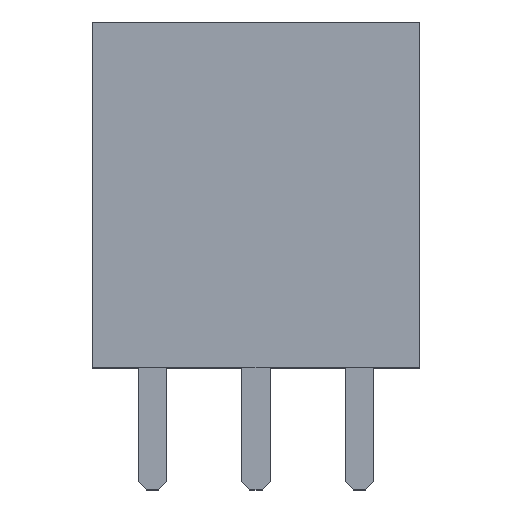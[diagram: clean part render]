
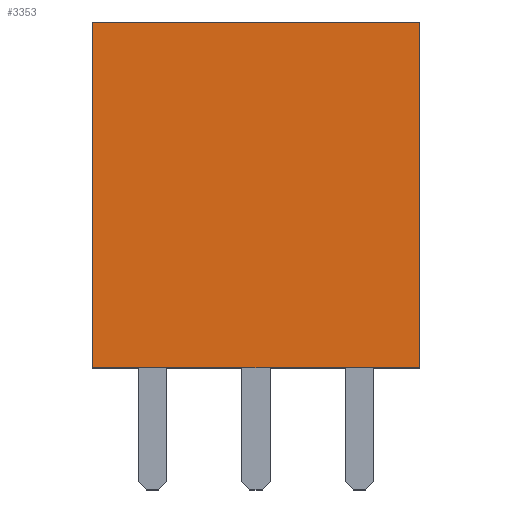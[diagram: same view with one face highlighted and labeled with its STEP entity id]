
A CAD part, top view. The second image highlights one B-rep face of the part: STEP entity #3353.
In plain terms, the highlighted planar face has unit normal (0, 0, 1).
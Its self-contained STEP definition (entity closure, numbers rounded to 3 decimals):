
#21 = EDGE_CURVE ( 'NONE', #4988, #99, #2025, .T. ) ;
#99 = VERTEX_POINT ( 'NONE', #1310 ) ;
#127 = CARTESIAN_POINT ( 'NONE',  ( -1.47, 8.5, 1.2 ) ) ;
#198 = DIRECTION ( 'NONE',  ( 0., -1., 0. ) ) ;
#530 = PLANE ( 'NONE',  #4767 ) ;
#582 = EDGE_CURVE ( 'NONE', #99, #4983, #1229, .T. ) ;
#817 = DIRECTION ( 'NONE',  ( 0., -1., 0. ) ) ;
#961 = CARTESIAN_POINT ( 'NONE',  ( -1.47, 8.5, 1.2 ) ) ;
#1229 = LINE ( 'NONE', #5742, #4268 ) ;
#1310 = CARTESIAN_POINT ( 'NONE',  ( 6.55, 8.5, 1.2 ) ) ;
#1910 = DIRECTION ( 'NONE',  ( 1., 0., 0. ) ) ;
#1981 = FACE_OUTER_BOUND ( 'NONE', #5090, .T. ) ;
#1993 = VECTOR ( 'NONE', #5568, 1000. ) ;
#2018 = EDGE_CURVE ( 'NONE', #4988, #4208, #5602, .T. ) ;
#2025 = LINE ( 'NONE', #961, #3276 ) ;
#2204 = EDGE_CURVE ( 'NONE', #4208, #4983, #4651, .T. ) ;
#2377 = CARTESIAN_POINT ( 'NONE',  ( -1.47, 0., 1.2 ) ) ;
#2457 = CARTESIAN_POINT ( 'NONE',  ( -1.47, 8.5, 1.2 ) ) ;
#3236 = CARTESIAN_POINT ( 'NONE',  ( -1.47, 0., 1.2 ) ) ;
#3276 = VECTOR ( 'NONE', #1910, 1000. ) ;
#3353 = ADVANCED_FACE ( 'NONE', ( #1981 ), #530, .F. ) ;
#3425 = VECTOR ( 'NONE', #198, 1000. ) ;
#3848 = DIRECTION ( 'NONE',  ( -1., 0., 0. ) ) ;
#4208 = VERTEX_POINT ( 'NONE', #3236 ) ;
#4251 = CARTESIAN_POINT ( 'NONE',  ( 6.55, 0., 1.2 ) ) ;
#4268 = VECTOR ( 'NONE', #817, 1000. ) ;
#4285 = DIRECTION ( 'NONE',  ( 0., 0., -1. ) ) ;
#4316 = CARTESIAN_POINT ( 'NONE',  ( -1.47, 8.5, 1.2 ) ) ;
#4342 = ORIENTED_EDGE ( 'NONE', *, *, #2204, .T. ) ;
#4649 = ORIENTED_EDGE ( 'NONE', *, *, #582, .F. ) ;
#4651 = LINE ( 'NONE', #2377, #1993 ) ;
#4767 = AXIS2_PLACEMENT_3D ( 'NONE', #2457, #4285, #3848 ) ;
#4887 = ORIENTED_EDGE ( 'NONE', *, *, #21, .F. ) ;
#4983 = VERTEX_POINT ( 'NONE', #4251 ) ;
#4988 = VERTEX_POINT ( 'NONE', #127 ) ;
#5090 = EDGE_LOOP ( 'NONE', ( #4342, #4649, #4887, #5386 ) ) ;
#5386 = ORIENTED_EDGE ( 'NONE', *, *, #2018, .T. ) ;
#5568 = DIRECTION ( 'NONE',  ( 1., 0., 0. ) ) ;
#5602 = LINE ( 'NONE', #4316, #3425 ) ;
#5742 = CARTESIAN_POINT ( 'NONE',  ( 6.55, 8.5, 1.2 ) ) ;
